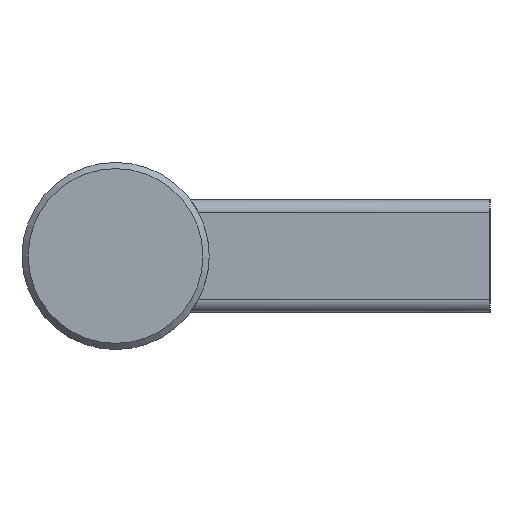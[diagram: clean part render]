
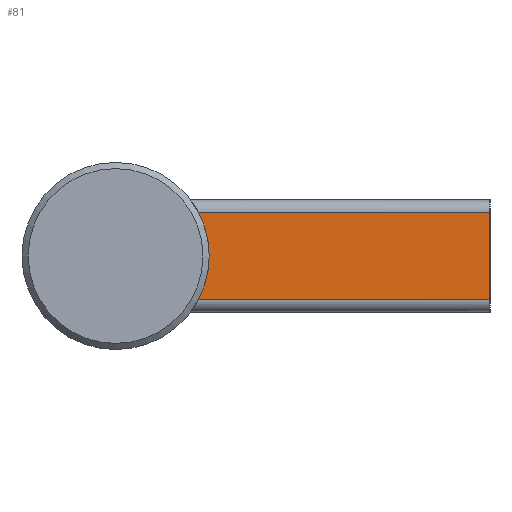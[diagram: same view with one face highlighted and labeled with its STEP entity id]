
A CAD part, left-side view. The second image highlights one B-rep face of the part: STEP entity #81.
In plain terms, the highlighted planar face has unit normal (-1, 0, 0).
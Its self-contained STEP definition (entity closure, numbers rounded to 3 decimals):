
#81 = ADVANCED_FACE( '', ( #121 ), #122, .F. );
#121 = FACE_OUTER_BOUND( '', #186, .T. );
#122 = PLANE( '', #187 );
#186 = EDGE_LOOP( '', ( #280, #281, #282, #283 ) );
#187 = AXIS2_PLACEMENT_3D( '', #284, #285, #286 );
#280 = ORIENTED_EDGE( '', *, *, #453, .F. );
#281 = ORIENTED_EDGE( '', *, *, #444, .T. );
#282 = ORIENTED_EDGE( '', *, *, #455, .T. );
#283 = ORIENTED_EDGE( '', *, *, #456, .T. );
#284 = CARTESIAN_POINT( '', ( -215., 60., -7. ) );
#285 = DIRECTION( '', ( 1., 0., 0. ) );
#286 = DIRECTION( '', ( 0., 0., -1. ) );
#444 = EDGE_CURVE( '', #517, #514, #518, .T. );
#453 = EDGE_CURVE( '', #517, #534, #535, .T. );
#455 = EDGE_CURVE( '', #514, #537, #538, .T. );
#456 = EDGE_CURVE( '', #537, #534, #539, .T. );
#514 = VERTEX_POINT( '', #668 );
#517 = VERTEX_POINT( '', #686 );
#518 = CIRCLE( '', #687, 15. );
#534 = VERTEX_POINT( '', #747 );
#535 = LINE( '', #748, #749 );
#537 = VERTEX_POINT( '', #751 );
#538 = LINE( '', #752, #753 );
#539 = LINE( '', #754, #755 );
#668 = CARTESIAN_POINT( '', ( -215., 46.734, -7. ) );
#686 = CARTESIAN_POINT( '', ( -215., 46.734, 7. ) );
#687 = AXIS2_PLACEMENT_3D( '', #844, #845, #846 );
#747 = CARTESIAN_POINT( '', ( -215., 0., 7. ) );
#748 = CARTESIAN_POINT( '', ( -215., 60., 7. ) );
#749 = VECTOR( '', #856, 1000. );
#751 = CARTESIAN_POINT( '', ( -215., 0., -7. ) );
#752 = CARTESIAN_POINT( '', ( -215., 60., -7. ) );
#753 = VECTOR( '', #860, 1000. );
#754 = CARTESIAN_POINT( '', ( -215., 0., -7. ) );
#755 = VECTOR( '', #861, 1000. );
#844 = CARTESIAN_POINT( '', ( -215., 60., 0. ) );
#845 = DIRECTION( '', ( 1., 0., 0. ) );
#846 = DIRECTION( '', ( 0., 0., -1. ) );
#856 = DIRECTION( '', ( 0., -1., 0. ) );
#860 = DIRECTION( '', ( 0., -1., 0. ) );
#861 = DIRECTION( '', ( 0., 0., 1. ) );
